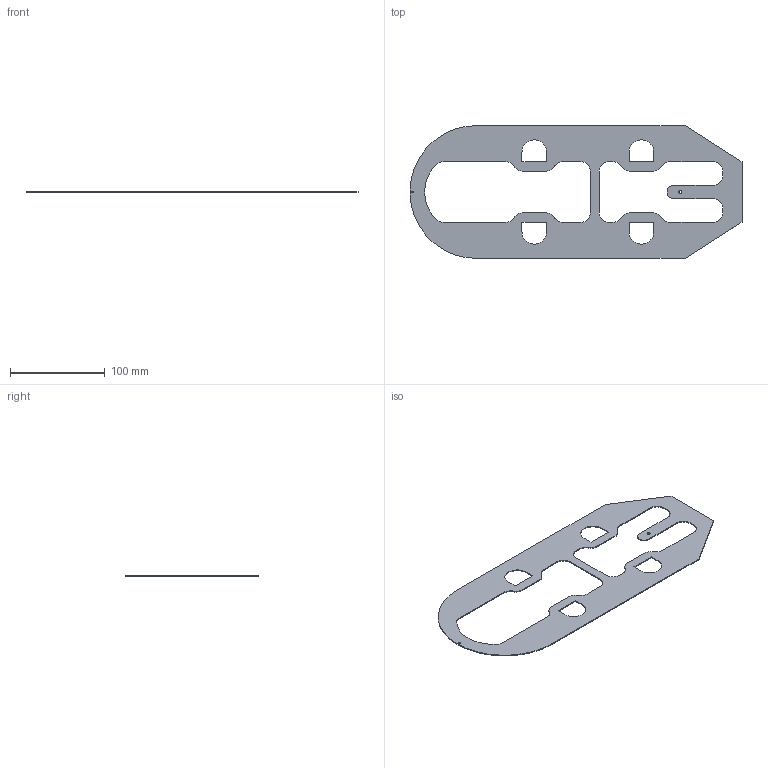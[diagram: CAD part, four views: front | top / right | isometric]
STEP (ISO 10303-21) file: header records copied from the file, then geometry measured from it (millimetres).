
FILE_DESCRIPTION(('STEP AP214'),'1');
FILE_NAME('tmp0.STEP','2026-08-22T12:47:42',(' '),(' '),'Spatial InterOp 3D',' ',' ');
FILE_SCHEMA(('AUTOMOTIVE_DESIGN { 1 0 10303 214 1 1 1 1 }'));
Length unit declared in the file: millimetre
Products named in the file (1): 1
Bounding box: 350 x 140 x 1 mm (x, y, z)
Volume: 25977.5 mm3; surface area: 54133.9 mm2
Topology: 1 solids, 1 shells, 107 faces, 315 edges, 210 vertices
Faces by surface type: cylinder 68, plane 39
Entity records: 3678 total; most frequent: DIRECTION 667, CARTESIAN_POINT 633, ORIENTED_EDGE 630, EDGE_CURVE 315, AXIS2_PLACEMENT_3D 244, VERTEX_POINT 210, LINE 179, VECTOR 179
